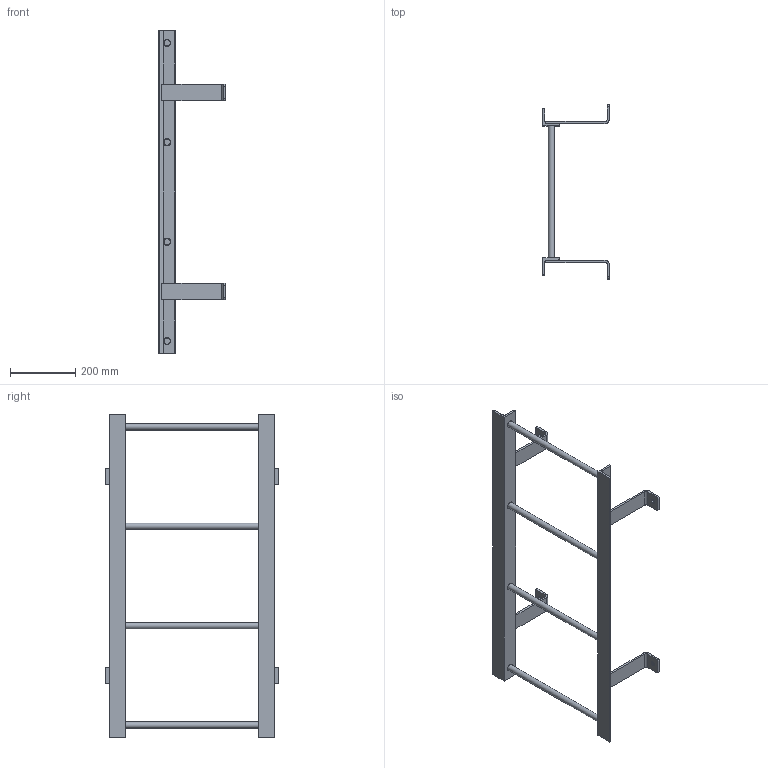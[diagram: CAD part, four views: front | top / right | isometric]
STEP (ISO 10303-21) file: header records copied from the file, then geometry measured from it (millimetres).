
FILE_DESCRIPTION(/* description */ (''),/* implementation_level */ '2;1');
FILE_NAME(/* name */ 'P:\MIKEL & KAREN\3570204 F4S SIMPLIFIED PART.stp',/* time_stamp */ '2018-07-02T15:17:22-04:00',/* author */ ('stephanie'),/* organization */ (''),/* preprocessor_version */ 'ST-DEVELOPER v16.1',/* originating_system */ 'Autodesk Inventor 2016',/* authorisation */ '');
FILE_SCHEMA (('AUTOMOTIVE_DESIGN { 1 0 10303 214 3 1 1 }'));
Length unit declared in the file: centimetre
Products named in the file (1): 3570204 F4S SIMPLIFIED PART
Bounding box: 203.33 x 533.25 x 990.6 mm (x, y, z)
Volume: 1971041.2 mm3; surface area: 590668.3 mm2
Topology: 6 solids, 6 shells, 100 faces, 268 edges, 180 vertices
Faces by surface type: plane 61, cylinder 39
Full cylindrical faces by diameter (mm): 14.287 x4, 19.05 x4, 22.225 x8
Entity records: 3150 total; most frequent: DIRECTION 528, CARTESIAN_POINT 509, ORIENTED_EDGE 480, EDGE_CURVE 240, AXIS2_PLACEMENT_3D 187, VERTEX_POINT 168, LINE 154, VECTOR 154
